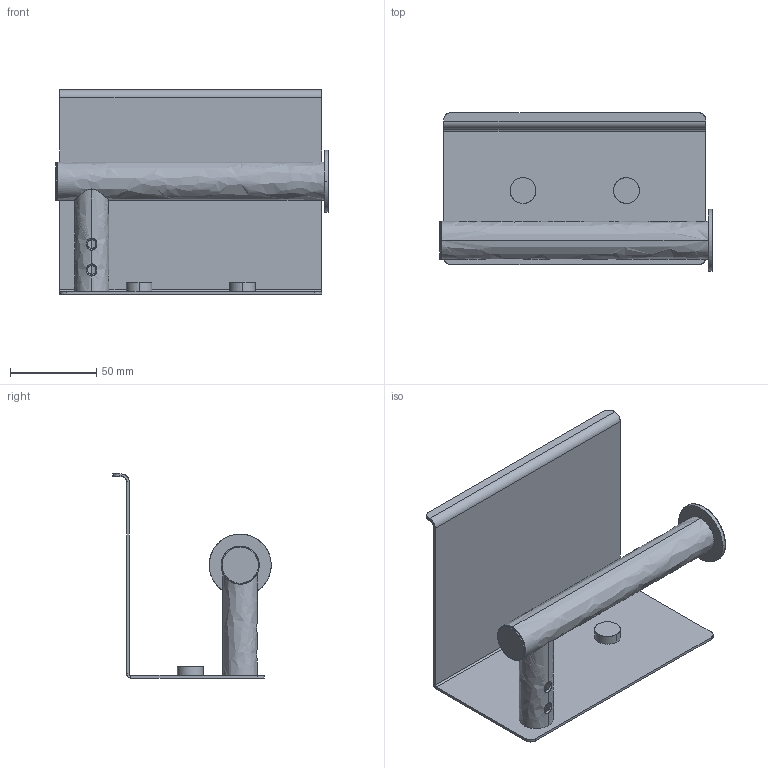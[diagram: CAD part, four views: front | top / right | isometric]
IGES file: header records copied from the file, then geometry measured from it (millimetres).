
Start section: SolidWorks IGES file using NURBS representation for surfaces
Global section: file name: G:\4- VARIOS\9 - Web Files\ARCHITECT S+\235##59-W.IGS; native system: SolidWorks 2016; preprocessor: SolidWorks 2016; author: vegrut01; date: 201027.101940; units: millimetre
Bounding box: 158.5 x 92 x 118.5 mm (x, y, z)
Surface area: 80342.5 mm2 (no closed solid volume)
Topology: 0 solids, 0 shells, 68 faces, 1432 edges, 1615 vertices
Faces by surface type: bspline 68
